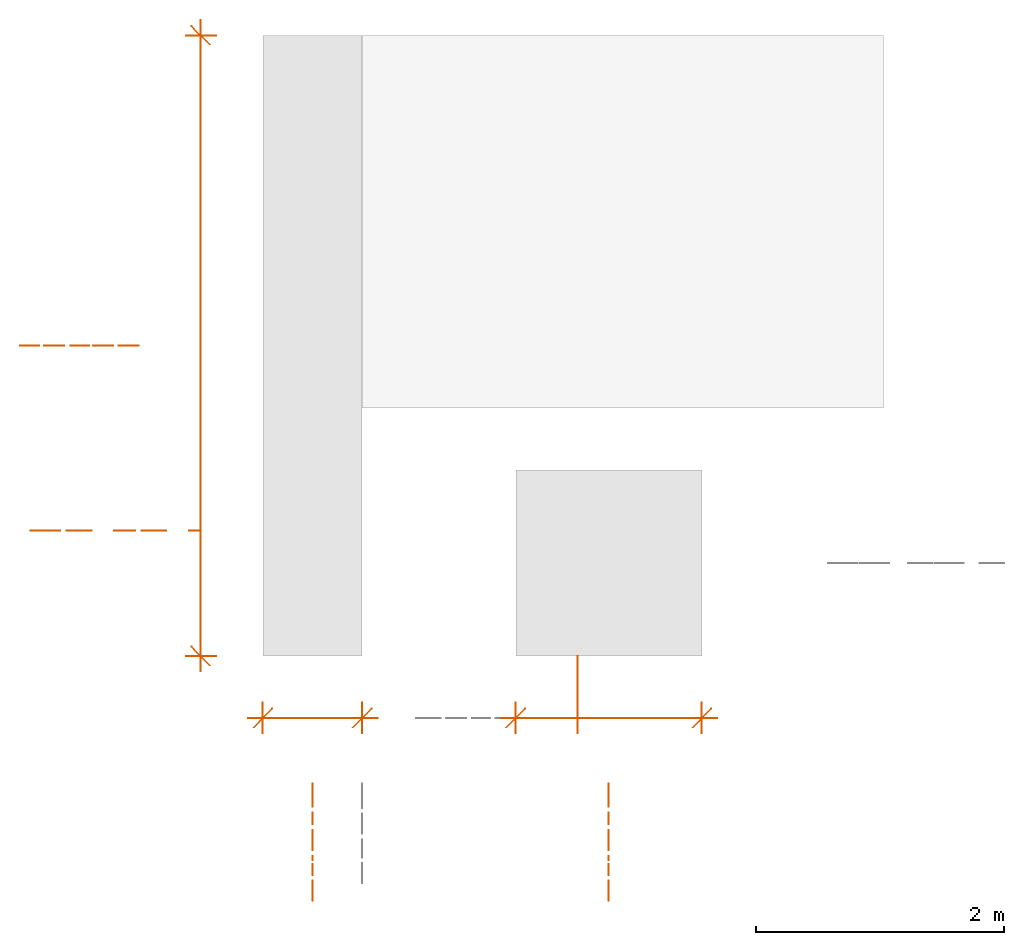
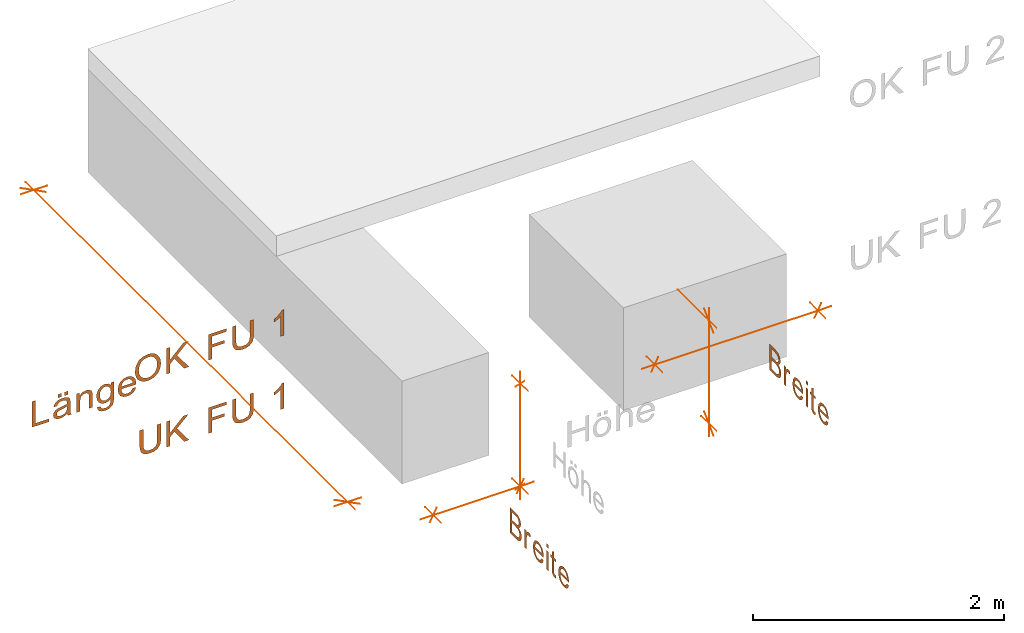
# One storey, part 2 of 3: 10 proxies, 10 elements without a shape of their own.
"""IFC4 building model written with IfcOpenShell, lengths in metres."""

from ifc_helpers import new_model, entity, si_unit, converted_unit, derived_unit, frame, origin, origin_with_axes, place, context, subcontext, project, spatial, open_shell, surface_model, source, transform, mapped, element, aggregate, save


model = new_model("IFC4")

# Units and contexts
model_context = context("Model", 3, precision=1e-05, world=origin())
body_context = subcontext(model_context, "Body", "Model", "MODEL_VIEW")
ifc_project = project(units=[si_unit("LENGTHUNIT", "METRE"), si_unit("AREAUNIT", "SQUARE_METRE"), si_unit("VOLUMEUNIT", "CUBIC_METRE"), si_unit("MASSUNIT", "GRAM", prefix="KILO"), converted_unit("PLANEANGLEUNIT", "DEGREE", entity("IfcPlaneAngleMeasure", 0.0174532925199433), si_unit("PLANEANGLEUNIT", "RADIAN"), dimensions=[0, 0, 0, 0, 0, 0, 0]), derived_unit("THERMALTRANSMITTANCEUNIT", [(si_unit("POWERUNIT", "WATT"), 1), (si_unit("THERMODYNAMICTEMPERATUREUNIT", "KELVIN"), -1), (si_unit("LENGTHUNIT", "METRE"), -2)]), derived_unit("VOLUMETRICFLOWRATEUNIT", [(si_unit("LENGTHUNIT", "METRE"), 3), (converted_unit("TIMEUNIT", "hour", entity("IfcTimeMeasure", 3600.0), si_unit("TIMEUNIT", "SECOND"), dimensions=[0, 0, 1, 0, 0, 0, 0]), -1), (si_unit("LENGTHUNIT", "METRE"), -1)])], contexts=[model_context])

# Site, building, storey
site_placement = place(None, origin())
site = spatial("IfcSite", under=ifc_project, at=site_placement, Name="Liegenschaft", CompositionType="ELEMENT")
building_placement = place(site_placement, origin())
building = spatial("IfcBuilding", under=site, at=building_placement, Name="Gebäude", CompositionType="ELEMENT")
storey_placement = place(building_placement, origin())
storey = spatial("IfcBuildingStorey", under=building, at=storey_placement, Name="Geschoss 01", CompositionType="ELEMENT", Elevation=0.0)

# Assembly, proxy
assembly_1_placement = place(storey_placement, origin())
assembly_1 = element("IfcElementAssembly", 1, at=assembly_1_placement, inside=storey, Name="SpatialDim_Group", PredefinedType="NOTDEFINED")
shared_shape_1 = source(origin_with_axes(), body_context, "Axis", "Curve3D", [
    entity("IfcPolyline", [entity("IfcCartesianPoint", [0.0500000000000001, 0.05, 0.0]), entity("IfcCartesianPoint", [0.2, 0.2, 0.0])]),
    entity("IfcPolyline", [entity("IfcCartesianPoint", [0.125, 0.0, 0.0]), entity("IfcCartesianPoint", [0.125, 0.25, 0.0])]),
    entity("IfcPolyline", [entity("IfcCartesianPoint", [0.85, 0.05, 0.0]), entity("IfcCartesianPoint", [1.0, 0.2, 0.0])]),
    entity("IfcPolyline", [entity("IfcCartesianPoint", [0.925, 0.0, 0.0]), entity("IfcCartesianPoint", [0.925, 0.25, 0.0])]),
    entity("IfcPolyline", [entity("IfcCartesianPoint", [0.0, 0.125, 0.0]), entity("IfcCartesianPoint", [1.05, 0.125, 0.0])]),
])
proxy_1_placement = place(assembly_1_placement, frame((18.6590061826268, -3.40826913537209, 0.0)))
proxy_1 = element("IfcBuildingElementProxy", 2, at=proxy_1_placement, Name="macro", context=body_context, shape_type="MappedRepresentation", body=[
    mapped(shared_shape_1, transform((0.0, 0.0, 0.0), x_axis=(1.0, 0.0, 0.0), y_axis=(0.0, 1.0, 0.0), z_axis=(0.0, 0.0, 1.0), scale=1.0)),
])
aggregate(assembly_1, [proxy_1])

assembly_2_placement = place(storey_placement, origin())
assembly_2 = element("IfcElementAssembly", 3, at=assembly_2_placement, inside=storey, Name="SpatialDim_Group", PredefinedType="NOTDEFINED")
shared_shape_2 = source(origin_with_axes(), body_context, "Axis", "Curve3D", [
    entity("IfcPolyline", [entity("IfcCartesianPoint", [0.05, 0.05, 0.0]), entity("IfcCartesianPoint", [0.2, 0.2, 0.0])]),
    entity("IfcPolyline", [entity("IfcCartesianPoint", [0.125, 0.0, 0.0]), entity("IfcCartesianPoint", [0.125, 0.25, 0.0])]),
    entity("IfcPolyline", [entity("IfcCartesianPoint", [1.05, 0.05, 0.0]), entity("IfcCartesianPoint", [1.2, 0.2, 0.0])]),
    entity("IfcPolyline", [entity("IfcCartesianPoint", [1.125, 0.0, 0.0]), entity("IfcCartesianPoint", [1.125, 0.25, 0.0])]),
    entity("IfcPolyline", [entity("IfcCartesianPoint", [0.0, 0.125, 0.0]), entity("IfcCartesianPoint", [1.25, 0.125, 0.0])]),
])
proxy_2_placement = place(assembly_2_placement, frame((19.5840061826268, -3.40826913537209, 1.125), z_axis=(1.0, 0.0, 1.22464679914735e-16), x_axis=(1.22464679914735e-16, 0.0, -1.0)))
proxy_2 = element("IfcBuildingElementProxy", 4, at=proxy_2_placement, Name="macro", context=body_context, shape_type="MappedRepresentation", body=[
    mapped(shared_shape_2, transform((0.0, 0.0, 0.0), x_axis=(1.0, 0.0, 0.0), y_axis=(0.0, 1.0, 0.0), z_axis=(0.0, 0.0, 1.0), scale=1.0)),
])
aggregate(assembly_2, [proxy_2])

assembly_3_placement = place(storey_placement, origin())
assembly_3 = element("IfcElementAssembly", 5, at=assembly_3_placement, inside=storey, Name="SpatialDim_Group", PredefinedType="NOTDEFINED")
shared_shape_3 = source(origin_with_axes(), body_context, "Axis", "Curve3D", [
    entity("IfcPolyline", [entity("IfcCartesianPoint", [0.05, 0.05, 0.0]), entity("IfcCartesianPoint", [0.2, 0.2, 0.0])]),
    entity("IfcPolyline", [entity("IfcCartesianPoint", [0.125, 0.25, 0.0]), entity("IfcCartesianPoint", [0.125, 0.0, 0.0])]),
    entity("IfcPolyline", [entity("IfcCartesianPoint", [5.05, 0.05, 0.0]), entity("IfcCartesianPoint", [5.2, 0.2, 0.0])]),
    entity("IfcPolyline", [entity("IfcCartesianPoint", [5.125, 0.25, 0.0]), entity("IfcCartesianPoint", [5.125, 0.0, 0.0])]),
    entity("IfcPolyline", [entity("IfcCartesianPoint", [0.0, 0.125, 0.0]), entity("IfcCartesianPoint", [5.25, 0.125, 0.0])]),
])
proxy_3_placement = place(assembly_3_placement, frame((18.4090061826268, -2.90826913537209, 0.0), z_axis=(0.0, 0.0, 1.0), x_axis=(1.22464679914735e-16, 1.0, 0.0)))
proxy_3 = element("IfcBuildingElementProxy", 6, at=proxy_3_placement, Name="macro", context=body_context, shape_type="MappedRepresentation", body=[
    mapped(shared_shape_3, transform((0.0, 0.0, 0.0), x_axis=(1.0, 0.0, 0.0), y_axis=(0.0, 1.0, 0.0), z_axis=(0.0, 0.0, 1.0), scale=1.0)),
])
aggregate(assembly_3, [proxy_3])

assembly_4_placement = place(storey_placement, origin())
assembly_4 = element("IfcElementAssembly", 7, at=assembly_4_placement, inside=storey, Name="SpatialDim_Group", PredefinedType="NOTDEFINED")
shared_shape_4 = source(origin_with_axes(), body_context, "Body", "SurfaceModel", [
    surface_model("IfcShellBasedSurfaceModel", [(0.00999999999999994, 0.942, 0.0), (0.00999999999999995, 0.847, 0.0), (0.01125, 0.82475, 0.0), (0.014, 0.807, 0.0), (0.01925, 0.792, 0.0), (0.026, 0.78, 0.0), (0.0365, 0.769375, 0.0), (0.05, 0.761, 0.0), (0.065625, 0.755625, 0.0), (0.082, 0.754, 0.0), (0.102375, 0.757, 0.0), (0.119, 0.766, 0.0), (0.133125, 0.781625, 0.0), (0.142, 0.801, 0.0), (0.152375, 0.78575, 0.0), (0.165, 0.775, 0.0), (0.180125, 0.76825, 0.0), (0.196, 0.766, 0.0), (0.21325, 0.76875, 0.0), (0.229, 0.776, 0.0), (0.243125, 0.788, 0.0), (0.252, 0.803, 0.0), (0.25825, 0.823375, 0.0), (0.26, 0.849, 0.0), (0.26, 0.942, 0.0), (0.15475, 0.836875, 0.0), (0.154, 0.855, 0.0), (0.154, 0.909, 0.0), (0.231, 0.909, 0.0), (0.231, 0.859, 0.0), (0.22975, 0.836375, 0.0), (0.227, 0.822, 0.0), (0.222, 0.812, 0.0), (0.214, 0.805, 0.0), (0.20375, 0.8005, 0.0), (0.192, 0.799, 0.0), (0.179875, 0.8005, 0.0), (0.17, 0.805, 0.0), (0.162, 0.813375, 0.0), (0.157, 0.824, 0.0), (0.039125, 0.83375, 0.0), (0.039, 0.847, 0.0), (0.0389999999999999, 0.909, 0.0), (0.125, 0.909, 0.0), (0.125, 0.852, 0.0), (0.12375, 0.8305, 0.0), (0.121, 0.815, 0.0), (0.115, 0.803875, 0.0), (0.106, 0.795, 0.0), (0.09475, 0.789625, 0.0), (0.082, 0.788, 0.0), (0.07075, 0.789375, 0.0), (0.061, 0.793, 0.0), (0.052875, 0.799125, 0.0), (0.047, 0.806, 0.0), (0.042375, 0.814375, 0.0), (0.04, 0.825, 0.0)], [open_shell([[[0, 1, 2, 3, 4, 5, 6, 7, 8, 9, 10, 11, 12, 13, 14, 15, 16, 17, 18, 19, 20, 21, 22, 23, 24], [25, 26, 27, 28, 29, 30, 31, 32, 33, 34, 35, 36, 37, 38, 39], [40, 41, 42, 43, 44, 45, 46, 47, 48, 49, 50, 51, 52, 53, 54, 55, 56]]], orient=[[False, False, False]])]),
    surface_model("IfcShellBasedSurfaceModel", [(0.00999999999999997, 0.706, 0.0), (0.00999999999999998, 0.675, 0.0), (0.105, 0.675, 0.0), (0.123625, 0.673625, 0.0), (0.14, 0.67, 0.0), (0.15, 0.665625, 0.0), (0.157, 0.659, 0.0), (0.1615, 0.65, 0.0), (0.163, 0.641, 0.0), (0.1615, 0.62975, 0.0), (0.157, 0.62, 0.0), (0.185, 0.609, 0.0), (0.192625, 0.624875, 0.0), (0.195, 0.64, 0.0), (0.1935, 0.65075, 0.0), (0.189, 0.66, 0.0), (0.179375, 0.6695, 0.0), (0.163, 0.679, 0.0), (0.191, 0.679, 0.0), (0.191, 0.706, 0.0)], [open_shell([[[0, 1, 2, 3, 4, 5, 6, 7, 8, 9, 10, 11, 12, 13, 14, 15, 16, 17, 18, 19]]], orient=[[False]])]),
    surface_model("IfcShellBasedSurfaceModel", [(0.068, 0.436, 0.0), (0.051375, 0.444875, 0.0), (0.04, 0.456, 0.0), (0.03325, 0.469375, 0.0), (0.031, 0.485, 0.0), (0.03525, 0.50675, 0.0), (0.047, 0.524, 0.0), (0.066625, 0.535875, 0.0), (0.093, 0.541, 0.0), (0.093, 0.404, 0.0), (0.09775, 0.404, 0.0), (0.101, 0.404, 0.0), (0.14075, 0.409875, 0.0), (0.17, 0.427, 0.0), (0.188875, 0.454, 0.0), (0.195, 0.487, 0.0), (0.1885, 0.521625, 0.0), (0.17, 0.548, 0.0), (0.139375, 0.566, 0.0), (0.099, 0.572, 0.0), (0.05925, 0.566125, 0.0), (0.03, 0.549, 0.0), (0.012, 0.52075, 0.0), (0.006, 0.485, 0.0), (0.00975, 0.455625, 0.0), (0.021, 0.433, 0.0), (0.0395, 0.415625, 0.0), (0.064, 0.405, 0.0), (0.137625, 0.43975, 0.0), (0.118, 0.436, 0.0), (0.118, 0.54, 0.0), (0.139625, 0.534625, 0.0), (0.156, 0.524, 0.0), (0.16675, 0.507, 0.0), (0.17, 0.487, 0.0), (0.1655, 0.46525, 0.0), (0.152, 0.448, 0.0)], [open_shell([[[0, 1, 2, 3, 4, 5, 6, 7, 8, 9, 10, 11, 12, 13, 14, 15, 16, 17, 18, 19, 20, 21, 22, 23, 24, 25, 26, 27], [28, 29, 30, 31, 32, 33, 34, 35, 36]]], orient=[[False, False]])]),
    surface_model("IfcShellBasedSurfaceModel", [(0.01, 0.355, 0.0), (0.01, 0.324, 0.0), (0.191, 0.324, 0.0), (0.191, 0.355, 0.0), (0.226, 0.355, 0.0), (0.226, 0.324, 0.0), (0.26, 0.324, 0.0), (0.26, 0.355, 0.0)], [open_shell([[[0, 1, 2, 3]], [[4, 5, 6, 7]]], orient=[[False], [False]])]),
    surface_model("IfcShellBasedSurfaceModel", [(0.038, 0.209, 0.0), (0.037125, 0.21675, 0.0), (0.037, 0.223, 0.0), (0.037625, 0.22875, 0.0), (0.039, 0.233, 0.0), (0.042, 0.236625, 0.0), (0.045, 0.238, 0.0), (0.051625, 0.23975, 0.0), (0.062, 0.24, 0.0), (0.167, 0.24, 0.0), (0.167, 0.209, 0.0), (0.191, 0.209, 0.0), (0.191, 0.24, 0.0), (0.254, 0.24, 0.0), (0.236, 0.271, 0.0), (0.191, 0.271, 0.0), (0.191, 0.294, 0.0), (0.167, 0.294, 0.0), (0.167, 0.271, 0.0), (0.063, 0.271, 0.0), (0.0405, 0.26975, 0.0), (0.027, 0.267, 0.0), (0.01925, 0.261625, 0.0), (0.013, 0.254, 0.0), (0.00900000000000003, 0.242875, 0.0), (0.00800000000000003, 0.228, 0.0), (0.00875000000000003, 0.216875, 0.0), (0.011, 0.205, 0.0)], [open_shell([[[0, 1, 2, 3, 4, 5, 6, 7, 8, 9, 10, 11, 12, 13, 14, 15, 16, 17, 18, 19, 20, 21, 22, 23, 24, 25, 26, 27]]], orient=[[False]])]),
    surface_model("IfcShellBasedSurfaceModel", [(0.068, 0.032, 0.0), (0.051375, 0.040875, 0.0), (0.04, 0.052, 0.0), (0.03325, 0.065375, 0.0), (0.031, 0.081, 0.0), (0.03525, 0.10275, 0.0), (0.047, 0.12, 0.0), (0.066625, 0.131875, 0.0), (0.093, 0.137, 0.0), (0.093, 0.0, 0.0), (0.09775, 0.0, 0.0), (0.101, 0.0, 0.0), (0.14075, 0.005875, 0.0), (0.17, 0.023, 0.0), (0.188875, 0.05, 0.0), (0.195, 0.083, 0.0), (0.1885, 0.117625, 0.0), (0.17, 0.144, 0.0), (0.139375, 0.162, 0.0), (0.099, 0.168, 0.0), (0.05925, 0.162125, 0.0), (0.03, 0.145, 0.0), (0.012, 0.11675, 0.0), (0.00600000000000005, 0.081, 0.0), (0.00975000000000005, 0.051625, 0.0), (0.0210000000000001, 0.029, 0.0), (0.0395000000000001, 0.011625, 0.0), (0.0640000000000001, 0.001, 0.0), (0.137625, 0.03575, 0.0), (0.118, 0.032, 0.0), (0.118, 0.136, 0.0), (0.139625, 0.130625, 0.0), (0.156, 0.12, 0.0), (0.16675, 0.103, 0.0), (0.17, 0.083, 0.0), (0.1655, 0.06125, 0.0), (0.152, 0.044, 0.0)], [open_shell([[[0, 1, 2, 3, 4, 5, 6, 7, 8, 9, 10, 11, 12, 13, 14, 15, 16, 17, 18, 19, 20, 21, 22, 23, 24, 25, 26, 27], [28, 29, 30, 31, 32, 33, 34, 35, 36]]], orient=[[False, False]])]),
])
proxy_4_placement = place(assembly_4_placement, frame((19.1840061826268, -4.75126913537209, 0.0), z_axis=(-1.0, 0.0, 1.22464679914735e-16), x_axis=(1.22464679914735e-16, 0.0, 1.0)))
proxy_4 = element("IfcBuildingElementProxy", 8, at=proxy_4_placement, Name="macro", context=body_context, shape_type="MappedRepresentation", body=[
    mapped(shared_shape_4, transform((0.0, 0.0, 0.0), x_axis=(1.0, 0.0, 0.0), y_axis=(0.0, 1.0, 0.0), z_axis=(0.0, 0.0, 1.0), scale=1.0)),
])
aggregate(assembly_4, [proxy_4])

assembly_5_placement = place(storey_placement, origin())
assembly_5 = element("IfcElementAssembly", 9, at=assembly_5_placement, inside=storey, Name="SpatialDim_Group", PredefinedType="NOTDEFINED")
proxy_5_placement = place(assembly_5_placement, frame((21.570715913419, -4.75126913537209, 0.75), z_axis=(-1.0, 0.0, 1.22464679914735e-16), x_axis=(1.22464679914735e-16, 0.0, 1.0)))
proxy_5 = element("IfcBuildingElementProxy", 10, at=proxy_5_placement, Name="macro", context=body_context, shape_type="MappedRepresentation", body=[
    mapped(shared_shape_4, transform((0.0, 0.0, 0.0), x_axis=(1.0, 0.0, 0.0), y_axis=(0.0, 1.0, 0.0), z_axis=(0.0, 0.0, 1.0), scale=1.0)),
])
aggregate(assembly_5, [proxy_5])

assembly_6_placement = place(storey_placement, origin())
assembly_6 = element("IfcElementAssembly", 11, at=assembly_6_placement, inside=storey, Name="SpatialDim_Group", PredefinedType="NOTDEFINED")
shared_shape_5 = source(origin_with_axes(), body_context, "Body", "SurfaceModel", [
    surface_model("IfcShellBasedSurfaceModel", [(0.548675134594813, 1.667, 0.0), (0.405675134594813, 1.667, 0.0), (0.365800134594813, 1.67075, 0.0), (0.341675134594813, 1.682, 0.0), (0.329550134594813, 1.70225, 0.0), (0.325675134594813, 1.733, 0.0), (0.327800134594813, 1.7525, 0.0), (0.333675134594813, 1.769, 0.0), (0.344175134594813, 1.78125, 0.0), (0.357675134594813, 1.789, 0.0), (0.377175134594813, 1.7935, 0.0), (0.405675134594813, 1.795, 0.0), (0.548675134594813, 1.795, 0.0), (0.548675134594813, 1.829, 0.0), (0.404675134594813, 1.829, 0.0), (0.368675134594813, 1.82625, 0.0), (0.341675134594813, 1.819, 0.0), (0.321175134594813, 1.8065, 0.0), (0.306675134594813, 1.788, 0.0), (0.297675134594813, 1.761625, 0.0), (0.294675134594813, 1.73, 0.0), (0.298300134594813, 1.69725, 0.0), (0.308675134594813, 1.672, 0.0), (0.325175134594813, 1.653125, 0.0), (0.344675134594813, 1.641, 0.0), (0.370925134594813, 1.63475, 0.0), (0.404675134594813, 1.633, 0.0), (0.548675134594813, 1.633, 0.0)], [open_shell([[[0, 1, 2, 3, 4, 5, 6, 7, 8, 9, 10, 11, 12, 13, 14, 15, 16, 17, 18, 19, 20, 21, 22, 23, 24, 25, 26, 27]]], orient=[[False]])]),
    surface_model("IfcShellBasedSurfaceModel", [(0.298675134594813, 1.582, 0.0), (0.298675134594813, 1.549, 0.0), (0.385675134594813, 1.549, 0.0), (0.424675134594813, 1.509, 0.0), (0.298675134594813, 1.419, 0.0), (0.298675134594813, 1.375, 0.0), (0.447675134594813, 1.485, 0.0), (0.548675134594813, 1.381, 0.0), (0.548675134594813, 1.426, 0.0), (0.426675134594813, 1.549, 0.0), (0.548675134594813, 1.549, 0.0), (0.548675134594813, 1.582, 0.0)], [open_shell([[[0, 1, 2, 3, 4, 5, 6, 7, 8, 9, 10, 11]]], orient=[[False]])]),
    surface_model("IfcShellBasedSurfaceModel", [(0.298675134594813, 1.197, 0.0), (0.298675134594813, 1.164, 0.0), (0.412675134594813, 1.164, 0.0), (0.412675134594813, 1.047, 0.0), (0.441675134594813, 1.047, 0.0), (0.441675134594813, 1.164, 0.0), (0.519675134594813, 1.164, 0.0), (0.519675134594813, 1.029, 0.0), (0.548675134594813, 1.029, 0.0), (0.548675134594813, 1.197, 0.0)], [open_shell([[[0, 1, 2, 3, 4, 5, 6, 7, 8, 9]]], orient=[[False]])]),
    surface_model("IfcShellBasedSurfaceModel", [(0.548675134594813, 0.814000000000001, 0.0), (0.405675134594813, 0.814000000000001, 0.0), (0.365800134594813, 0.81775, 0.0), (0.341675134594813, 0.829000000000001, 0.0), (0.329550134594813, 0.84925, 0.0), (0.325675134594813, 0.88, 0.0), (0.327800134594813, 0.8995, 0.0), (0.333675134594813, 0.916, 0.0), (0.344175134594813, 0.92825, 0.0), (0.357675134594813, 0.936, 0.0), (0.377175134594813, 0.9405, 0.0), (0.405675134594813, 0.942, 0.0), (0.548675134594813, 0.942, 0.0), (0.548675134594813, 0.976, 0.0), (0.404675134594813, 0.976, 0.0), (0.368675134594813, 0.97325, 0.0), (0.341675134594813, 0.966, 0.0), (0.321175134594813, 0.9535, 0.0), (0.306675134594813, 0.935, 0.0), (0.297675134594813, 0.908625, 0.0), (0.294675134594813, 0.877, 0.0), (0.298300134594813, 0.84425, 0.0), (0.308675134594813, 0.819000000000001, 0.0), (0.325175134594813, 0.800125, 0.0), (0.344675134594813, 0.788, 0.0), (0.370925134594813, 0.781750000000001, 0.0), (0.404675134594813, 0.78, 0.0), (0.548675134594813, 0.78, 0.0)], [open_shell([[[0, 1, 2, 3, 4, 5, 6, 7, 8, 9, 10, 11, 12, 13, 14, 15, 16, 17, 18, 19, 20, 21, 22, 23, 24, 25, 26, 27]]], orient=[[False]])]),
    surface_model("IfcShellBasedSurfaceModel", [(0.298675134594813, 0.5, 0.0), (0.549675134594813, 0.5, 0.0), (0.549675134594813, 0.52, 0.0), (0.533175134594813, 0.53125, 0.0), (0.516675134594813, 0.547, 0.0), (0.500175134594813, 0.568000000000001, 0.0), (0.486675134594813, 0.592, 0.0), (0.457675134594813, 0.592, 0.0), (0.464425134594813, 0.57675, 0.0), (0.472675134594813, 0.56, 0.0), (0.484050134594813, 0.543625, 0.0), (0.494675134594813, 0.531, 0.0), (0.298675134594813, 0.531, 0.0)], [open_shell([[[0, 1, 2, 3, 4, 5, 6, 7, 8, 9, 10, 11, 12]]], orient=[[False]])]),
])
proxy_6_placement = place(assembly_6_placement, frame((18.7840061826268, -1.77326913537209, 0.0), z_axis=(-1.22464679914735e-16, -1.0, 1.49975978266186e-32), x_axis=(1.22464679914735e-16, 0.0, 1.0)))
proxy_6 = element("IfcBuildingElementProxy", 12, at=proxy_6_placement, Name="macro", context=body_context, shape_type="MappedRepresentation", body=[
    mapped(shared_shape_5, transform((0.0, 0.0, 0.0), x_axis=(1.0, 0.0, 0.0), y_axis=(0.0, 1.0, 0.0), z_axis=(0.0, 0.0, 1.0), scale=1.0)),
])
aggregate(assembly_6, [proxy_6])

assembly_7_placement = place(storey_placement, origin())
assembly_7 = element("IfcElementAssembly", 13, at=assembly_7_placement, inside=storey, Name="SpatialDim_Group", PredefinedType="NOTDEFINED")
shared_shape_6 = source(origin_with_axes(), body_context, "Body", "SurfaceModel", [
    surface_model("IfcShellBasedSurfaceModel", [(0.0997499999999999, 1.867375, 0.0), (0.0689999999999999, 1.857, 0.0), (0.0426249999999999, 1.839, 0.0), (0.0229999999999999, 1.815, 0.0), (0.00999999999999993, 1.785, 0.0), (0.00599999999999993, 1.752, 0.0), (0.00974999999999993, 1.7205, 0.0), (0.0209999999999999, 1.692, 0.0), (0.0406249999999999, 1.666625, 0.0), (0.0669999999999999, 1.648, 0.0), (0.0991249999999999, 1.63675, 0.0), (0.135, 1.633, 0.0), (0.17025, 1.63675, 0.0), (0.201, 1.648, 0.0), (0.227875, 1.666, 0.0), (0.248, 1.69, 0.0), (0.260125, 1.719125, 0.0), (0.264, 1.752, 0.0), (0.255125, 1.799875, 0.0), (0.229, 1.838, 0.0), (0.186875, 1.86275, 0.0), (0.132, 1.871, 0.0), (0.0918749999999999, 1.831, 0.0), (0.131, 1.837, 0.0), (0.17925, 1.8305, 0.0), (0.211, 1.812, 0.0), (0.229, 1.78425, 0.0), (0.235, 1.752, 0.0), (0.232, 1.728, 0.0), (0.223, 1.707, 0.0), (0.207375, 1.68975, 0.0), (0.188, 1.677, 0.0), (0.163, 1.669375, 0.0), (0.135, 1.667, 0.0), (0.0923749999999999, 1.673, 0.0), (0.0609999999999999, 1.691, 0.0), (0.0412499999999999, 1.7185, 0.0), (0.0349999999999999, 1.752, 0.0), (0.0416249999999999, 1.785875, 0.0), (0.0609999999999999, 1.813, 0.0)], [open_shell([[[0, 1, 2, 3, 4, 5, 6, 7, 8, 9, 10, 11, 12, 13, 14, 15, 16, 17, 18, 19, 20, 21], [22, 23, 24, 25, 26, 27, 28, 29, 30, 31, 32, 33, 34, 35, 36, 37, 38, 39]]], orient=[[False, False]])]),
    surface_model("IfcShellBasedSurfaceModel", [(0.00999999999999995, 1.582, 0.0), (0.00999999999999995, 1.549, 0.0), (0.0969999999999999, 1.549, 0.0), (0.136, 1.509, 0.0), (0.00999999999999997, 1.419, 0.0), (0.00999999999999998, 1.375, 0.0), (0.159, 1.485, 0.0), (0.26, 1.381, 0.0), (0.26, 1.426, 0.0), (0.138, 1.549, 0.0), (0.26, 1.549, 0.0), (0.26, 1.582, 0.0)], [open_shell([[[0, 1, 2, 3, 4, 5, 6, 7, 8, 9, 10, 11]]], orient=[[False]])]),
    surface_model("IfcShellBasedSurfaceModel", [(0.01, 1.197, 0.0), (0.01, 1.164, 0.0), (0.124, 1.164, 0.0), (0.124, 1.047, 0.0), (0.153, 1.047, 0.0), (0.153, 1.164, 0.0), (0.231, 1.164, 0.0), (0.231, 1.029, 0.0), (0.26, 1.029, 0.0), (0.26, 1.197, 0.0)], [open_shell([[[0, 1, 2, 3, 4, 5, 6, 7, 8, 9]]], orient=[[False]])]),
    surface_model("IfcShellBasedSurfaceModel", [(0.26, 0.814, 0.0), (0.117, 0.814, 0.0), (0.077125, 0.81775, 0.0), (0.053, 0.829, 0.0), (0.040875, 0.84925, 0.0), (0.037, 0.88, 0.0), (0.039125, 0.8995, 0.0), (0.045, 0.916, 0.0), (0.0555, 0.92825, 0.0), (0.069, 0.936, 0.0), (0.0885, 0.9405, 0.0), (0.117, 0.942, 0.0), (0.26, 0.942, 0.0), (0.26, 0.976, 0.0), (0.116, 0.976, 0.0), (0.08, 0.97325, 0.0), (0.053, 0.966, 0.0), (0.0325, 0.9535, 0.0), (0.018, 0.935, 0.0), (0.00900000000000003, 0.908625, 0.0), (0.00600000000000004, 0.877, 0.0), (0.00962500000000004, 0.84425, 0.0), (0.02, 0.819, 0.0), (0.0365, 0.800125, 0.0), (0.056, 0.788, 0.0), (0.08225, 0.78175, 0.0), (0.116, 0.78, 0.0), (0.26, 0.78, 0.0)], [open_shell([[[0, 1, 2, 3, 4, 5, 6, 7, 8, 9, 10, 11, 12, 13, 14, 15, 16, 17, 18, 19, 20, 21, 22, 23, 24, 25, 26, 27]]], orient=[[False]])]),
    surface_model("IfcShellBasedSurfaceModel", [(0.0100000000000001, 0.5, 0.0), (0.261, 0.5, 0.0), (0.261, 0.52, 0.0), (0.2445, 0.53125, 0.0), (0.228, 0.547, 0.0), (0.2115, 0.568, 0.0), (0.198, 0.592, 0.0), (0.169, 0.592, 0.0), (0.17575, 0.57675, 0.0), (0.184, 0.56, 0.0), (0.195375, 0.543625, 0.0), (0.206, 0.531, 0.0), (0.0100000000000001, 0.531, 0.0)], [open_shell([[[0, 1, 2, 3, 4, 5, 6, 7, 8, 9, 10, 11, 12]]], orient=[[False]])]),
])
proxy_7_placement = place(assembly_7_placement, frame((18.7840061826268, -1.77326913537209, 1.0), z_axis=(-1.22464679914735e-16, -1.0, 1.49975978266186e-32), x_axis=(1.22464679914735e-16, 0.0, 1.0)))
proxy_7 = element("IfcBuildingElementProxy", 14, at=proxy_7_placement, Name="macro", context=body_context, shape_type="MappedRepresentation", body=[
    mapped(shared_shape_6, transform((0.0, 0.0, 0.0), x_axis=(1.0, 0.0, 0.0), y_axis=(0.0, 1.0, 0.0), z_axis=(0.0, 0.0, 1.0), scale=1.0)),
])
aggregate(assembly_7, [proxy_7])

assembly_8_placement = place(storey_placement, origin())
assembly_8 = element("IfcElementAssembly", 15, at=assembly_8_placement, inside=storey, Name="SpatialDim_Group", PredefinedType="NOTDEFINED")
shared_shape_7 = source(origin_with_axes(), body_context, "Body", "SurfaceModel", [
    surface_model("IfcShellBasedSurfaceModel", [(0.0729999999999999, 1.457, 0.0), (0.0729999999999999, 1.301, 0.0), (0.102, 1.301, 0.0), (0.102, 1.424, 0.0), (0.323, 1.424, 0.0), (0.323, 1.457, 0.0)], [open_shell([[[0, 1, 2, 3, 4, 5]]], orient=[[False]])]),
    surface_model("IfcShellBasedSurfaceModel", [(0.276, 1.159, 0.0), (0.276, 1.127, 0.0), (0.31, 1.127, 0.0), (0.31, 1.159, 0.0), (0.276, 1.221, 0.0), (0.276, 1.189, 0.0), (0.31, 1.189, 0.0), (0.31, 1.221, 0.0), (0.0833749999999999, 1.13075, 0.0), (0.0729999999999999, 1.127, 0.0), (0.0729999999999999, 1.096, 0.0), (0.0836249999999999, 1.100625, 0.0), (0.0949999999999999, 1.103, 0.0), (0.1145, 1.10475, 0.0), (0.149, 1.105, 0.0), (0.19, 1.105, 0.0), (0.207375, 1.105625, 0.0), (0.218, 1.107, 0.0), (0.23, 1.11075, 0.0), (0.239, 1.116, 0.0), (0.24675, 1.125125, 0.0), (0.253, 1.138, 0.0), (0.257, 1.155125, 0.0), (0.258, 1.176, 0.0), (0.2565, 1.1985, 0.0), (0.252, 1.218, 0.0), (0.243625, 1.23375, 0.0), (0.233, 1.245, 0.0), (0.219, 1.253875, 0.0), (0.202, 1.259, 0.0), (0.198, 1.228, 0.0), (0.21525, 1.221125, 0.0), (0.225, 1.212, 0.0), (0.23125, 1.198625, 0.0), (0.233, 1.18, 0.0), (0.23025, 1.159, 0.0), (0.223, 1.144, 0.0), (0.21175, 1.13725, 0.0), (0.196, 1.135, 0.0), (0.19275, 1.135, 0.0), (0.188, 1.135, 0.0), (0.182125, 1.158125, 0.0), (0.177, 1.191, 0.0), (0.174625, 1.20675, 0.0), (0.173, 1.218, 0.0), (0.168375, 1.230625, 0.0), (0.163, 1.241, 0.0), (0.15475, 1.250125, 0.0), (0.145, 1.257, 0.0), (0.133, 1.2615, 0.0), (0.121, 1.263, 0.0), (0.0998749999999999, 1.25875, 0.0), (0.0839999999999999, 1.247, 0.0), (0.0727499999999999, 1.2265, 0.0), (0.069, 1.2, 0.0), (0.0704999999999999, 1.18225, 0.0), (0.0749999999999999, 1.166, 0.0), (0.0832499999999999, 1.1495, 0.0), (0.0959999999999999, 1.133, 0.0), (0.158, 1.156, 0.0), (0.164, 1.135, 0.0), (0.153, 1.135, 0.0), (0.1345, 1.136375, 0.0), (0.122, 1.14, 0.0), (0.10925, 1.149, 0.0), (0.101, 1.161, 0.0), (0.0947499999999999, 1.17625, 0.0), (0.0929999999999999, 1.193, 0.0), (0.0951249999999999, 1.20925, 0.0), (0.101, 1.221, 0.0), (0.11075, 1.22775, 0.0), (0.122, 1.23, 0.0), (0.12975, 1.22875, 0.0), (0.136, 1.226, 0.0), (0.142125, 1.219875, 0.0), (0.146, 1.213, 0.0), (0.14975, 1.20175, 0.0), (0.152, 1.186, 0.0)], [open_shell([[[0, 1, 2, 3]], [[4, 5, 6, 7]], [[8, 9, 10, 11, 12, 13, 14, 15, 16, 17, 18, 19, 20, 21, 22, 23, 24, 25, 26, 27, 28, 29, 30, 31, 32, 33, 34, 35, 36, 37, 38, 39, 40, 41, 42, 43, 44, 45, 46, 47, 48, 49, 50, 51, 52, 53, 54, 55, 56, 57, 58], [59, 60, 61, 62, 63, 64, 65, 66, 67, 68, 69, 70, 71, 72, 73, 74, 75, 76, 77]]], orient=[[False], [False], [False, False]])]),
    surface_model("IfcShellBasedSurfaceModel", [(0.0729999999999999, 1.047, 0.0), (0.0729999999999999, 1.016, 0.0), (0.172, 1.016, 0.0), (0.201125, 1.012375, 0.0), (0.219, 1.002, 0.0), (0.228, 0.98625, 0.0), (0.231, 0.969, 0.0), (0.2295, 0.95775, 0.0), (0.225, 0.948, 0.0), (0.21875, 0.9405, 0.0), (0.211, 0.936, 0.0), (0.198875, 0.932875, 0.0), (0.183, 0.932, 0.0), (0.0729999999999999, 0.932, 0.0), (0.0729999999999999, 0.901, 0.0), (0.184, 0.901, 0.0), (0.20275, 0.901625, 0.0), (0.214, 0.903, 0.0), (0.226625, 0.90675, 0.0), (0.237, 0.912, 0.0), (0.24525, 0.920875, 0.0), (0.252, 0.932, 0.0), (0.2565, 0.947, 0.0), (0.258, 0.962, 0.0), (0.2505, 0.995, 0.0), (0.228, 1.019, 0.0), (0.254, 1.019, 0.0), (0.254, 1.047, 0.0)], [open_shell([[[0, 1, 2, 3, 4, 5, 6, 7, 8, 9, 10, 11, 12, 13, 14, 15, 16, 17, 18, 19, 20, 21, 22, 23, 24, 25, 26, 27]]], orient=[[False]])]),
    surface_model("IfcShellBasedSurfaceModel", [(0.0589999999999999, 0.859, 0.0), (0.032875, 0.853875, 0.0), (0.015, 0.839, 0.0), (0.00375, 0.815625, 0.0), (0.0, 0.787, 0.0), (0.00275, 0.761375, 0.0), (0.01, 0.741, 0.0), (0.022125, 0.724375, 0.0), (0.038, 0.713, 0.0), (0.062, 0.70675, 0.0), (0.098, 0.705, 0.0), (0.254, 0.705, 0.0), (0.254, 0.733, 0.0), (0.232, 0.733, 0.0), (0.25175, 0.756875, 0.0), (0.258, 0.786, 0.0), (0.255, 0.8085, 0.0), (0.246, 0.828, 0.0), (0.23125, 0.84375, 0.0), (0.212, 0.855, 0.0), (0.18875, 0.862625, 0.0), (0.164, 0.865, 0.0), (0.129375, 0.85975, 0.0), (0.1, 0.844, 0.0), (0.0797499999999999, 0.819125, 0.0), (0.073, 0.786, 0.0), (0.078875, 0.758375, 0.0), (0.096, 0.736, 0.0), (0.07125, 0.735875, 0.0), (0.057, 0.738, 0.0), (0.0435, 0.744, 0.0), (0.033, 0.753, 0.0), (0.02675, 0.76725, 0.0), (0.025, 0.786, 0.0), (0.02725, 0.804125, 0.0), (0.034, 0.817, 0.0), (0.043, 0.824375, 0.0), (0.055, 0.828, 0.0), (0.136, 0.83025, 0.0), (0.167, 0.834, 0.0), (0.196, 0.83025, 0.0), (0.216, 0.819, 0.0), (0.229, 0.803, 0.0), (0.233, 0.784, 0.0), (0.228625, 0.7645, 0.0), (0.216, 0.748, 0.0), (0.19475, 0.73675, 0.0), (0.166, 0.733, 0.0), (0.135125, 0.736625, 0.0), (0.114, 0.747, 0.0), (0.101875, 0.7635, 0.0), (0.098, 0.783, 0.0), (0.10225, 0.80325, 0.0), (0.114, 0.819, 0.0)], [open_shell([[[0, 1, 2, 3, 4, 5, 6, 7, 8, 9, 10, 11, 12, 13, 14, 15, 16, 17, 18, 19, 20, 21, 22, 23, 24, 25, 26, 27, 28, 29, 30, 31, 32, 33, 34, 35, 36, 37], [38, 39, 40, 41, 42, 43, 44, 45, 46, 47, 48, 49, 50, 51, 52, 53]]], orient=[[False, False]])]),
    surface_model("IfcShellBasedSurfaceModel", [(0.131, 0.532, 0.0), (0.114375, 0.540875, 0.0), (0.103, 0.552, 0.0), (0.09625, 0.565375, 0.0), (0.094, 0.581, 0.0), (0.09825, 0.60275, 0.0), (0.11, 0.62, 0.0), (0.129625, 0.631875, 0.0), (0.156, 0.637, 0.0), (0.156, 0.5, 0.0), (0.16075, 0.5, 0.0), (0.164, 0.5, 0.0), (0.20375, 0.505875, 0.0), (0.233, 0.523, 0.0), (0.251875, 0.55, 0.0), (0.258, 0.583, 0.0), (0.2515, 0.617625, 0.0), (0.233, 0.644, 0.0), (0.202375, 0.662, 0.0), (0.162, 0.668, 0.0), (0.12225, 0.662125, 0.0), (0.093, 0.645, 0.0), (0.075, 0.61675, 0.0), (0.069, 0.581, 0.0), (0.07275, 0.551625, 0.0), (0.084, 0.529, 0.0), (0.1025, 0.511625, 0.0), (0.127, 0.501, 0.0), (0.200625, 0.53575, 0.0), (0.181, 0.532, 0.0), (0.181, 0.636, 0.0), (0.202625, 0.630625, 0.0), (0.219, 0.62, 0.0), (0.22975, 0.603, 0.0), (0.233, 0.583, 0.0), (0.2285, 0.56125, 0.0), (0.215, 0.544, 0.0)], [open_shell([[[0, 1, 2, 3, 4, 5, 6, 7, 8, 9, 10, 11, 12, 13, 14, 15, 16, 17, 18, 19, 20, 21, 22, 23, 24, 25, 26, 27], [28, 29, 30, 31, 32, 33, 34, 35, 36]]], orient=[[False, False]])]),
])
proxy_8_placement = place(assembly_8_placement, frame((18.2840061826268, -0.283269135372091, -0.351675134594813), z_axis=(-1.22464679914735e-16, -1.0, 1.49975978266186e-32), x_axis=(1.22464679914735e-16, 0.0, 1.0)))
proxy_8 = element("IfcBuildingElementProxy", 16, at=proxy_8_placement, context=body_context, shape_type="MappedRepresentation", body=[
    mapped(shared_shape_7, transform((0.0, 0.0, 0.0), x_axis=(1.0, 0.0, 0.0), y_axis=(0.0, 1.0, 0.0), z_axis=(0.0, 0.0, 1.0), scale=1.0)),
])
aggregate(assembly_8, [proxy_8])

assembly_9_placement = place(storey_placement, origin())
assembly_9 = element("IfcElementAssembly", 17, at=assembly_9_placement, inside=storey, Name="SpatialDim_Group", PredefinedType="NOTDEFINED")
shared_shape_8 = source(origin_with_axes(), body_context, "Axis", "Curve3D", [
    entity("IfcPolyline", [entity("IfcCartesianPoint", [0.05, 0.05, 0.0]), entity("IfcCartesianPoint", [0.2, 0.2, 0.0])]),
    entity("IfcPolyline", [entity("IfcCartesianPoint", [0.125, 0.0, 0.0]), entity("IfcCartesianPoint", [0.125, 0.25, 0.0])]),
    entity("IfcPolyline", [entity("IfcCartesianPoint", [1.05, 0.05, 0.0]), entity("IfcCartesianPoint", [1.2, 0.2, 0.0])]),
    entity("IfcPolyline", [entity("IfcCartesianPoint", [1.125, 0.0, 0.0]), entity("IfcCartesianPoint", [1.125, 0.624999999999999, 0.0])]),
    entity("IfcPolyline", [entity("IfcCartesianPoint", [0.0, 0.125, 0.0]), entity("IfcCartesianPoint", [1.25, 0.125, 0.0])]),
])
proxy_9_placement = place(assembly_9_placement, frame((21.320715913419, -3.40826913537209, -0.125), z_axis=(-1.0, 0.0, 1.22464679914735e-16), x_axis=(1.22464679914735e-16, 0.0, 1.0)))
proxy_9 = element("IfcBuildingElementProxy", 18, at=proxy_9_placement, Name="macro", context=body_context, shape_type="MappedRepresentation", body=[
    mapped(shared_shape_8, transform((0.0, 0.0, 0.0), x_axis=(1.0, 0.0, 0.0), y_axis=(0.0, 1.0, 0.0), z_axis=(0.0, 0.0, 1.0), scale=1.0)),
])
aggregate(assembly_9, [proxy_9])

assembly_10_placement = place(storey_placement, origin())
assembly_10 = element("IfcElementAssembly", 19, at=assembly_10_placement, inside=storey, Name="SpatialDim_Group", PredefinedType="NOTDEFINED")
shared_shape_9 = source(origin_with_axes(), body_context, "Axis", "Curve3D", [
    entity("IfcPolyline", [entity("IfcCartesianPoint", [0.05, 0.05, 0.0]), entity("IfcCartesianPoint", [0.2, 0.2, 0.0])]),
    entity("IfcPolyline", [entity("IfcCartesianPoint", [0.125, 0.0, 0.0]), entity("IfcCartesianPoint", [0.125, 0.25, 0.0])]),
    entity("IfcPolyline", [entity("IfcCartesianPoint", [1.55, 0.05, 0.0]), entity("IfcCartesianPoint", [1.7, 0.2, 0.0])]),
    entity("IfcPolyline", [entity("IfcCartesianPoint", [1.625, 0.0, 0.0]), entity("IfcCartesianPoint", [1.625, 0.25, 0.0])]),
    entity("IfcPolyline", [entity("IfcCartesianPoint", [0.0, 0.125, 0.0]), entity("IfcCartesianPoint", [1.75, 0.125, 0.0])]),
])
proxy_10_placement = place(assembly_10_placement, frame((20.695715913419, -3.40826913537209, 0.75)))
proxy_10 = element("IfcBuildingElementProxy", 20, at=proxy_10_placement, Name="macro", context=body_context, shape_type="MappedRepresentation", body=[
    mapped(shared_shape_9, transform((0.0, 0.0, 0.0), x_axis=(1.0, 0.0, 0.0), y_axis=(0.0, 1.0, 0.0), z_axis=(0.0, 0.0, 1.0), scale=1.0)),
])
aggregate(assembly_10, [proxy_10])

save(model, "model.ifc")
